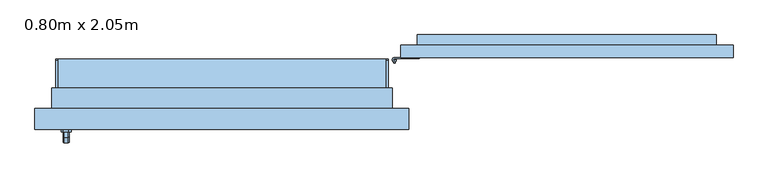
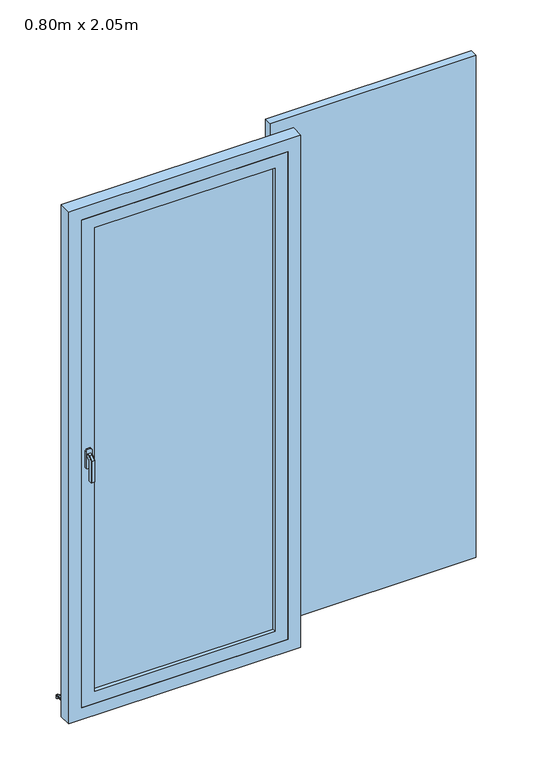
"""IFC4 building model written with IfcOpenShell, lengths in millimetres: window geometry, PF 1 Vantail droit - Volet et petits bois : 0.80m x 2.05m."""

from ifc_helpers import new_model, si_unit, point, frame, frame_2d, origin, place, context, project, spatial, polyline, circle_curve, trimmed, segment, composite_curve, outline, extrude, faceted_brep, source, transform, mapped, element, save
from ifc_brep_helpers import plane_surface, cylinder_surface, advanced_brep


def window_0_80m_x_2_05m_45d8a1b5(model_context):
    return source(origin(), model_context, "Body", "SolidModel", [
        extrude(outline(polyline([(1230.0, 93.0), (430.0, 93.0), (430.0, 123.0), (1230.0, 123.0), (1230.0, 93.0)])), frame((0.0, 0.0, 25.0), z_axis=(0.0, 0.0, 1.0), x_axis=(1.0, 0.0, 0.0)), (0.0, 0.0, 1.0), 2060.0),
        advanced_brep(
        [(410.0, 88.0, 225.0), (420.0, 88.0, 225.0), (410.0, 88.0, 200.0), (420.0, 88.0, 200.0), (417.0, 83.4174243, 205.0), (413.0, 83.4174243, 205.0), (413.0, 83.4174243, 215.0), (417.0, 83.4174243, 215.0), (413.0, 80.0, 215.0), (417.0, 80.0, 215.0), (417.0, 80.0, 205.0), (413.0, 80.0, 205.0)],
        [
            (0, 1, circle_curve(frame((415.0, 88.0, 225.0), z_axis=(0.0, 0.0, 1.0), x_axis=(1.0, 0.0, 0.0)), 5.0)),
            (1, 0, circle_curve(frame((415.0, 88.0, 225.0), z_axis=(0.0, 0.0, 1.0), x_axis=(1.0, 0.0, 0.0)), 5.0)),
            (2, 3, circle_curve(frame((415.0, 88.0, 200.0), z_axis=(0.0, 0.0, -1.0), x_axis=(1.0, 0.0, 0.0)), 5.0)),
            (3, 2, circle_curve(frame((415.0, 88.0, 200.0), z_axis=(0.0, 0.0, -1.0), x_axis=(1.0, 0.0, 0.0)), 5.0)),
            (0, 2),
            (3, 1),
            (4, 5, circle_curve(frame((415.0, 88.0, 205.0), z_axis=(0.0, 0.0, -1.0), x_axis=(1.0, 0.0, 0.0)), 5.0)),
            (5, 6),
            (6, 7, circle_curve(frame((415.0, 88.0, 215.0), z_axis=(0.0, 0.0, 1.0), x_axis=(1.0, 0.0, 0.0)), 5.0)),
            (7, 4),
            (8, 9),
            (9, 7),
            (6, 8),
            (10, 11),
            (11, 5),
            (4, 10),
            (9, 10),
            (11, 8),
        ],
        [
            plane_surface(frame((420.0, 88.0, 225.0), z_axis=(0.0, 0.0, 1.0), x_axis=(0.0, 1.0, 0.0))),
            plane_surface(frame((420.0, 88.0, 200.0), z_axis=(0.0, 0.0, -1.0), x_axis=(0.0, -1.0, 0.0))),
            cylinder_surface(frame((415.0, 88.0, 200.0), z_axis=(0.0, 0.0, 1.0), x_axis=(1.0, 0.0, 0.0)), 5.0),
            plane_surface(frame((417.0, 80.0, 215.0), z_axis=(0.0, 0.0, 1.0), x_axis=(0.0, 1.0, 0.0))),
            plane_surface(frame((417.0, 80.0, 205.0), z_axis=(0.0, 0.0, -1.0), x_axis=(0.0, -1.0, 0.0))),
            plane_surface(frame((417.0, 80.0, 215.0), z_axis=(1.0, 0.0, 0.0), x_axis=(0.0, 0.0, -1.0))),
            plane_surface(frame((413.0, 85.0, 215.0), z_axis=(-1.0, 0.0, 0.0), x_axis=(0.0, 0.0, -1.0))),
            plane_surface(frame((413.0, 80.0, 215.0), z_axis=(0.0, -1.0, 0.0), x_axis=(0.0, 0.0, -1.0))),
        ],
        [
            (0, [[1, 2]]),
            (1, [[3, 4]]),
            (2, [[-1, 5, -4, 6], [7, 8, 9, 10]]),
            (2, [[-2, -6, -3, -5]]),
            (3, [[11, 12, -9, 13]]),
            (4, [[14, 15, -7, 16]]),
            (5, [[17, -16, -10, -12]]),
            (6, [[18, -13, -8, -15]]),
            (7, [[-11, -18, -14, -17]]),
        ],
    ),
        extrude(outline(composite_curve([segment(polyline([(415.0, 93.0), (474.3092325, 93.0), (474.3092325, 90.5), (415.0, 90.5)]), True, "CONTINUOUS"), segment(trimmed(circle_curve(frame_2d((415.0, 88.0)), 2.5), [point((415.0, 90.5))], [point((417.5, 88.0))], True, "CARTESIAN"), True, "CONTINUOUS"), segment(polyline([(417.5, 88.0), (420.0, 88.0)]), True, "CONTINUOUS"), segment(trimmed(circle_curve(frame_2d((415.0, 88.0)), 5.0), [point((420.0, 88.0))], [point((415.0, 93.0))], False, "CARTESIAN"), True, "CONTINUOUS")], self_intersect=False)), frame((0.0, 0.0, 225.0), z_axis=(0.0, 0.0, 1.0), x_axis=(1.0, 0.0, 0.0)), (0.0, 0.0, 1.0), 25.0),
        extrude(outline(composite_curve([segment(trimmed(circle_curve(frame_2d((415.0, 88.0)), 2.5), [point((412.5, 88.0))], [point((417.5, 88.0))], False, "CARTESIAN"), True, "CONTINUOUS"), segment(trimmed(circle_curve(frame_2d((415.0, 88.0)), 2.5), [point((417.5, 88.0))], [point((412.5, 88.0))], False, "CARTESIAN"), True, "CONTINUOUS")], self_intersect=False)), frame((0.0, 0.0, 225.0), z_axis=(0.0, 0.0, 1.0), x_axis=(1.0, 0.0, 0.0)), (0.0, 0.0, 1.0), 25.0),
        advanced_brep(
        [(410.0, 88.0, 1885.0), (420.0, 88.0, 1885.0), (410.0, 88.0, 1860.0), (420.0, 88.0, 1860.0), (413.0, 83.4174243, 1875.0), (417.0, 83.4174243, 1875.0), (417.0, 83.4174243, 1865.0), (413.0, 83.4174243, 1865.0), (413.0, 80.0, 1875.0), (417.0, 80.0, 1875.0), (413.0, 80.0, 1865.0), (417.0, 80.0, 1865.0)],
        [
            (0, 1, circle_curve(frame((415.0, 88.0, 1885.0), z_axis=(0.0, 0.0, 1.0), x_axis=(1.0, 0.0, 0.0)), 5.0)),
            (1, 0, circle_curve(frame((415.0, 88.0, 1885.0), z_axis=(0.0, 0.0, 1.0), x_axis=(1.0, 0.0, 0.0)), 5.0)),
            (2, 3, circle_curve(frame((415.0, 88.0, 1860.0), z_axis=(0.0, 0.0, -1.0), x_axis=(1.0, 0.0, 0.0)), 5.0)),
            (3, 2, circle_curve(frame((415.0, 88.0, 1860.0), z_axis=(0.0, 0.0, -1.0), x_axis=(1.0, 0.0, 0.0)), 5.0)),
            (0, 2),
            (3, 1),
            (4, 5, circle_curve(frame((415.0, 88.0, 1875.0), z_axis=(0.0, 0.0, 1.0), x_axis=(1.0, 0.0, 0.0)), 5.0)),
            (5, 6),
            (6, 7, circle_curve(frame((415.0, 88.0, 1865.0), z_axis=(0.0, 0.0, -1.0), x_axis=(1.0, 0.0, 0.0)), 5.0)),
            (7, 4),
            (8, 9),
            (9, 5),
            (4, 8),
            (10, 7),
            (6, 11),
            (11, 10),
            (8, 10),
            (11, 9),
        ],
        [
            plane_surface(frame((420.0, 88.0, 1885.0), z_axis=(0.0, 0.0, 1.0), x_axis=(0.0, 1.0, 0.0))),
            plane_surface(frame((420.0, 88.0, 1860.0), z_axis=(0.0, 0.0, -1.0), x_axis=(0.0, -1.0, 0.0))),
            cylinder_surface(frame((415.0, 88.0, 1860.0), z_axis=(0.0, 0.0, 1.0), x_axis=(1.0, 0.0, 0.0)), 5.0),
            plane_surface(frame((413.0, 80.0, 1875.0), z_axis=(0.0, 0.0, 1.0), x_axis=(1.0, 0.0, 0.0))),
            plane_surface(frame((413.0, 80.0, 1865.0), z_axis=(0.0, 0.0, -1.0), x_axis=(-1.0, 0.0, 0.0))),
            plane_surface(frame((413.0, 80.0, 1875.0), z_axis=(0.0, -1.0, 0.0), x_axis=(0.0, 0.0, -1.0))),
            plane_surface(frame((417.0, 80.0, 1875.0), z_axis=(1.0, 0.0, 0.0), x_axis=(0.0, 0.0, -1.0))),
            plane_surface(frame((413.0, 83.4174243, 1875.0), z_axis=(-1.0, 0.0, 0.0), x_axis=(0.0, 0.0, -1.0))),
        ],
        [
            (0, [[1, 2]]),
            (1, [[3, 4]]),
            (2, [[-1, 5, -4, 6], [7, 8, 9, 10]]),
            (2, [[-2, -6, -3, -5]]),
            (3, [[11, 12, -7, 13]]),
            (4, [[14, -9, 15, 16]]),
            (5, [[-11, 17, -16, 18]]),
            (6, [[-12, -18, -15, -8]]),
            (7, [[-13, -10, -14, -17]]),
        ],
    ),
        extrude(outline(polyline([(413.0, 80.0), (413.0, 83.4174243), (417.0, 83.4174243), (417.0, 80.0), (413.0, 80.0)])), frame((0.0, 0.0, 1035.0), z_axis=(0.0, 0.0, 1.0), x_axis=(1.0, 0.0, 0.0)), (0.0, 0.0, 1.0), 10.0),
        extrude(outline(composite_curve([segment(polyline([(415.0, 93.0), (474.3092325, 93.0), (474.3092325, 90.5), (415.0, 90.5)]), True, "CONTINUOUS"), segment(trimmed(circle_curve(frame_2d((415.0, 88.0)), 2.5), [point((415.0, 90.5))], [point((412.5, 88.0))], True, "CARTESIAN"), True, "CONTINUOUS"), segment(trimmed(circle_curve(frame_2d((415.0, 88.0)), 2.5), [point((412.5, 88.0))], [point((417.5, 88.0))], True, "CARTESIAN"), True, "CONTINUOUS"), segment(polyline([(417.5, 88.0), (420.0, 88.0)]), True, "CONTINUOUS"), segment(trimmed(circle_curve(frame_2d((415.0, 88.0)), 5.0), [point((420.0, 88.0))], [point((415.0, 93.0))], False, "CARTESIAN"), True, "CONTINUOUS")], self_intersect=False)), frame((0.0, 0.0, 1055.0), z_axis=(0.0, 0.0, 1.0), x_axis=(1.0, 0.0, 0.0)), (0.0, 0.0, 1.0), 25.0),
        extrude(outline(composite_curve([segment(trimmed(circle_curve(frame_2d((415.0, 88.0)), 2.5), [point((412.5, 88.0))], [point((417.5, 88.0))], False, "CARTESIAN"), True, "CONTINUOUS"), segment(trimmed(circle_curve(frame_2d((415.0, 88.0)), 2.5), [point((417.5, 88.0))], [point((412.5, 88.0))], False, "CARTESIAN"), True, "CONTINUOUS")], self_intersect=False)), frame((0.0, 0.0, 1055.0), z_axis=(0.0, 0.0, 1.0), x_axis=(1.0, 0.0, 0.0)), (0.0, 0.0, 1.0), 25.0),
        extrude(outline(composite_curve([segment(trimmed(circle_curve(frame_2d((415.0, 88.0)), 5.0), [point((410.0, 88.0))], [point((420.0, 88.0))], False, "CARTESIAN"), True, "CONTINUOUS"), segment(trimmed(circle_curve(frame_2d((415.0, 88.0)), 5.0), [point((420.0, 88.0))], [point((410.0, 88.0))], False, "CARTESIAN"), True, "CONTINUOUS")], self_intersect=False)), frame((0.0, 0.0, 1030.0), z_axis=(0.0, 0.0, 1.0), x_axis=(1.0, 0.0, 0.0)), (0.0, 0.0, 1.0), 25.0),
        extrude(outline(composite_curve([segment(polyline([(415.0, 93.0), (474.3092325, 93.0), (474.3092325, 90.5), (415.0, 90.5)]), True, "CONTINUOUS"), segment(trimmed(circle_curve(frame_2d((415.0, 88.0)), 2.5), [point((415.0, 90.5))], [point((417.5, 88.0))], True, "CARTESIAN"), True, "CONTINUOUS"), segment(polyline([(417.5, 88.0), (420.0, 88.0)]), True, "CONTINUOUS"), segment(trimmed(circle_curve(frame_2d((415.0, 88.0)), 5.0), [point((420.0, 88.0))], [point((415.0, 93.0))], False, "CARTESIAN"), True, "CONTINUOUS")], self_intersect=False)), frame((0.0, 0.0, 1885.0), z_axis=(0.0, 0.0, 1.0), x_axis=(1.0, 0.0, 0.0)), (0.0, 0.0, 1.0), 25.0),
        extrude(outline(composite_curve([segment(trimmed(circle_curve(frame_2d((415.0, 88.0)), 2.5), [point((412.5, 88.0))], [point((417.5, 88.0))], False, "CARTESIAN"), True, "CONTINUOUS"), segment(trimmed(circle_curve(frame_2d((415.0, 88.0)), 2.5), [point((417.5, 88.0))], [point((412.5, 88.0))], False, "CARTESIAN"), True, "CONTINUOUS")], self_intersect=False)), frame((0.0, 0.0, 1885.0), z_axis=(0.0, 0.0, 1.0), x_axis=(1.0, 0.0, 0.0)), (0.0, 0.0, 1.0), 25.0),
        extrude(outline(polyline([(1845.0, 1086.4451446), (1095.0, 470.0), (1095.0, 573.5548554), (1845.0, 1190.0), (1845.0, 1086.4451446)])), frame((0.0, 123.0, 0.0), z_axis=(0.0, 1.0, 0.0), x_axis=(0.0, 0.0, 1.0)), (0.0, 0.0, 1.0), 25.0),
        extrude(outline(polyline([(265.0, 573.5555806), (1015.0, 1190.0007252), (1015.0, 1086.4458698), (265.0, 470.0007252), (265.0, 573.5555806)])), frame((0.0, 123.0, 0.0), z_axis=(0.0, 1.0, 0.0), x_axis=(0.0, 0.0, 1.0)), (0.0, 0.0, 1.0), 25.0),
        extrude(outline(polyline([(470.0, 148.0), (1190.0, 148.0), (1190.0, 123.0), (470.0, 123.0), (470.0, 148.0)])), frame((0.0, 0.0, 1845.0), z_axis=(0.0, 0.0, 1.0), x_axis=(1.0, 0.0, 0.0)), (0.0, 0.0, 1.0), 80.0),
        extrude(outline(polyline([(470.0, 148.0), (1190.0, 148.0), (1190.0, 123.0), (470.0, 123.0), (470.0, 148.0)])), frame((0.0, 0.0, 185.0), z_axis=(0.0, 0.0, 1.0), x_axis=(1.0, 0.0, 0.0)), (0.0, 0.0, 1.0), 80.0),
        extrude(outline(polyline([(470.0, 148.0), (1190.0, 148.0), (1190.0, 123.0), (470.0, 123.0), (470.0, 148.0)])), frame((0.0, 0.0, 1015.0), z_axis=(0.0, 0.0, 1.0), x_axis=(1.0, 0.0, 0.0)), (0.0, 0.0, 1.0), 80.0),
        faceted_brep([(-369.3539903, -86.0, 1122.0339292), (-367.9660708, -86.0, 1120.6460097), (-367.9660708, -86.0, 1109.3323012), (-369.3323012, -86.0, 1107.9660708), (-380.6676988, -86.0, 1107.9660708), (-382.0339292, -86.0, 1109.3323012), (-382.0339292, -86.0, 1120.6460097), (-380.6460097, -86.0, 1122.0339292), (-369.3539903, -98.9135489, 1122.0339292), (-367.9660708, -98.3386538, 1120.6460097), (-367.9660708, -111.6460097, 1107.3386538), (-367.9660708, -111.6460097, 1020.0), (-367.9660708, -100.3323012, 1020.0), (-367.9660708, -100.3323012, 1102.6523623), (-367.9660708, -93.6523623, 1109.3323012), (-369.3323012, -93.0864511, 1107.9660708), (-380.6676988, -93.0864511, 1107.9660708), (-382.0339292, -93.6523623, 1109.3323012), (-382.0339292, -100.3323012, 1102.6523623), (-382.0339292, -100.3323012, 1020.0), (-382.0339292, -111.6460097, 1020.0), (-382.0339292, -111.6460097, 1107.3386538), (-382.0339292, -98.3386538, 1120.6460097), (-380.6460097, -98.9135489, 1122.0339292), (-369.3539903, -113.0339292, 1107.9135489), (-369.3323012, -98.9660708, 1102.0864511), (-380.6676988, -98.9660708, 1102.0864511), (-380.6460097, -113.0339292, 1107.9135489), (-369.3539903, -113.0339292, 1020.0), (-380.6460097, -113.0339292, 1020.0), (-380.6676988, -98.9660708, 1020.0), (-369.3323012, -98.9660708, 1020.0)], [[[0, 1, 2, 3, 4, 5, 6, 7]], [[1, 0, 8, 9]], [[2, 1, 9, 10, 11, 12, 13, 14]], [[3, 2, 14, 15]], [[4, 3, 15, 16]], [[5, 4, 16, 17]], [[6, 5, 17, 18, 19, 20, 21, 22]], [[7, 6, 22, 23]], [[0, 7, 23, 8]], [[9, 8, 24, 10]], [[15, 14, 13, 25]], [[16, 15, 25, 26]], [[17, 16, 26, 18]], [[23, 22, 21, 27]], [[8, 23, 27, 24]], [[28, 29, 20, 19, 30, 31, 12, 11]], [[10, 24, 28, 11]], [[25, 13, 12, 31]], [[26, 25, 31, 30]], [[18, 26, 30, 19]], [[27, 21, 20, 29]], [[24, 27, 29, 28]]]),
        extrude(outline(polyline([(1140.0, -368.0), (1140.0, -382.0), (1135.0, -387.0), (1065.0, -387.0), (1060.0, -382.0), (1060.0, -368.0), (1065.0, -363.0), (1135.0, -363.0), (1140.0, -368.0)])), frame((0.0, -86.0, 0.0), z_axis=(0.0, 1.0, 0.0), x_axis=(0.0, 0.0, 1.0)), (0.0, 0.0, 1.0), 6.0),
        extrude(outline(polyline([(90.0288776, 30.7927954), (90.0288776, 19.7145929), (85.0288776, 20.2401141), (85.0288776, 26.0631048), (0.0, 35.0), (0.0, 50.0), (5.0, 50.0), (5.0, 39.7296906), (90.0288776, 30.7927954)])), frame((-400.0, 0.0, 0.0), z_axis=(1.0, 0.0, 0.0), x_axis=(0.0, 1.0, 0.0)), (0.0, 0.0, 1.0), 800.0),
        extrude(outline(composite_curve([segment(polyline([(90.0288776, 30.7927954), (5.0, 39.7296906), (5.0, 44.757232), (86.4469915, 36.1968082)]), True, "CONTINUOUS"), segment(trimmed(circle_curve(frame_2d((86.0288776, 32.2187207)), 4.0), [point((86.4469915, 36.1968082))], [point((90.0288776, 32.2187207))], False, "CARTESIAN"), True, "CONTINUOUS"), segment(polyline([(90.0288776, 32.2187207), (90.0288776, 30.7927954)]), True, "CONTINUOUS")], self_intersect=False)), frame((-400.0, 0.0, 0.0), z_axis=(1.0, 0.0, 0.0), x_axis=(0.0, 1.0, 0.0)), (0.0, 0.0, 1.0), 5.0),
        extrude(outline(composite_curve([segment(polyline([(90.0288776, 30.7927954), (5.0, 39.7296906), (5.0, 44.757232), (86.4469915, 36.1968082)]), True, "CONTINUOUS"), segment(trimmed(circle_curve(frame_2d((86.0288776, 32.2187207)), 4.0), [point((86.4469915, 36.1968082))], [point((90.0288776, 32.2187207))], False, "CARTESIAN"), True, "CONTINUOUS"), segment(polyline([(90.0288776, 32.2187207), (90.0288776, 30.7927954)]), True, "CONTINUOUS")], self_intersect=False)), frame((395.0, 0.0, 0.0), z_axis=(1.0, 0.0, 0.0), x_axis=(0.0, 1.0, 0.0)), (0.0, 0.0, 1.0), 5.0),
        extrude(outline(polyline([(-350.0, -54.0), (350.0, -54.0), (350.0, -66.0), (-350.0, -66.0), (-350.0, -54.0)])), frame((0.0, 0.0, 135.0), z_axis=(0.0, 0.0, 1.0), x_axis=(1.0, 0.0, 0.0)), (0.0, 0.0, 1.0), 1900.0),
        extrude(outline(polyline([(85.0, 400.0), (2085.0, 400.0), (2085.0, -400.0), (85.0, -400.0), (85.0, 400.0)]), holes=[polyline([(135.0, -350.0), (2035.0, -350.0), (2035.0, 350.0), (135.0, 350.0), (135.0, -350.0)])]), frame((0.0, -80.0, 0.0), z_axis=(0.0, 1.0, 0.0), x_axis=(0.0, 0.0, 1.0)), (0.0, 0.0, 1.0), 40.0),
        faceted_brep([(-450.0, -80.0, 35.0), (-450.0, -30.0, 35.0), (-400.0, -30.0, 35.0), (-400.0, 0.0, 35.0), (400.0, 0.0, 35.0), (400.0, -30.0, 35.0), (450.0, -30.0, 35.0), (450.0, -80.0, 35.0), (-450.0, -80.0, 2135.0), (-450.0, -30.0, 2135.0), (450.0, -30.0, 2135.0), (400.0, -30.0, 74.3761425), (-400.0, -30.0, 74.3761425), (-385.0, -30.0, 2070.0), (-385.0, -30.0, 100.0), (385.0, -30.0, 100.0), (385.0, -30.0, 2070.0), (-400.0, 20.0, 60.9786829), (-400.0, 20.0, 45.0), (-400.0, 10.0, 45.0), (-400.0, 10.0, 50.0), (-400.0, 0.0, 50.0), (400.0, 0.0, 50.0), (400.0, 10.0, 50.0), (400.0, 10.0, 45.0), (400.0, 20.0, 45.0), (400.0, 20.0, 60.9786829), (450.0, -80.0, 2135.0), (400.0, -80.0, 2085.0), (400.0, -80.0, 85.0), (-400.0, -80.0, 85.0), (-400.0, -80.0, 2085.0), (-385.0, -40.0, 2070.0), (-385.0, -40.0, 100.0), (385.0, -40.0, 100.0), (385.0, -40.0, 2070.0), (400.0, -40.0, 2085.0), (-400.0, -40.0, 2085.0), (-400.0, -40.0, 85.0), (400.0, -40.0, 85.0)], [[[0, 1, 2, 3, 4, 5, 6, 7]], [[1, 0, 8, 9]], [[1, 9, 10, 6, 5, 11, 12, 2], [13, 14, 15, 16]], [[12, 17, 18, 19, 20, 21, 3, 2]], [[3, 21, 22, 4]], [[4, 22, 23, 24, 25, 26, 11, 5]], [[6, 10, 27, 7]], [[0, 7, 27, 8], [28, 29, 30, 31]], [[13, 32, 33, 14]], [[33, 34, 15, 14]], [[35, 16, 15, 34]], [[17, 12, 11, 26]], [[36, 37, 38, 39], [32, 35, 34, 33]], [[38, 37, 31, 30]], [[30, 29, 39, 38]], [[28, 36, 39, 29]], [[18, 17, 26, 25]], [[19, 18, 25, 24]], [[20, 19, 24, 23]], [[21, 20, 23, 22]], [[13, 16, 35, 32]], [[37, 36, 28, 31]], [[10, 9, 8, 27]]]),
        extrude(outline(polyline([(35.0, -410.0), (35.0, -400.0), (2085.0, -400.0), (2085.0, 400.0), (35.0, 400.0), (35.0, 410.0), (2095.0, 410.0), (2095.0, -410.0), (35.0, -410.0)])), frame((0.0, -30.0, 0.0), z_axis=(0.0, 1.0, 0.0), x_axis=(0.0, 0.0, 1.0)), (0.0, 0.0, 1.0), 50.0),
    ])


if __name__ == "__main__":
    model = new_model("IFC4")
    model_context = context("Model", 3, world=origin())
    ifc_project = project(units=[si_unit("LENGTHUNIT", "METRE", prefix="MILLI")], contexts=[model_context])
    site = spatial("IfcSite", under=ifc_project)
    building = spatial("IfcBuilding", under=site)
    placement = place(None, origin())
    window_0_80m_x_2_05m_shape = window_0_80m_x_2_05m_45d8a1b5(model_context)
    element("IfcWindow", 1, ObjectType="PF 1 Vantail droit - Volet et petits bois : 0.80m x 2.05m", at=placement, inside=building, context=model_context, shape_type="MappedRepresentation", body=[
        mapped(window_0_80m_x_2_05m_shape, transform((0.0, 0.0, 0.0), x_axis=(1.0, 0.0, 0.0), y_axis=(0.0, 1.0, 0.0), z_axis=(0.0, 0.0, 1.0))),
    ])
    save(model, "model.ifc")
